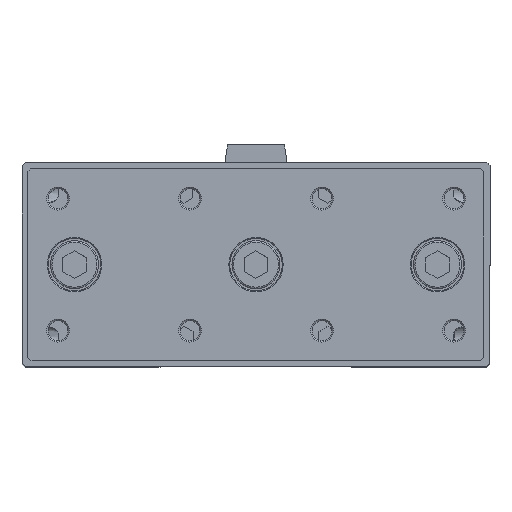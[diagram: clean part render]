
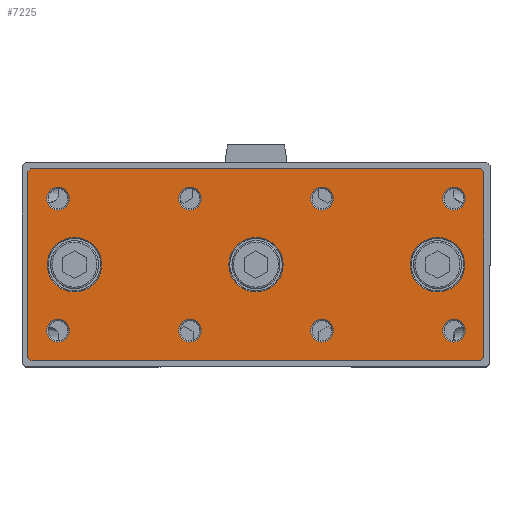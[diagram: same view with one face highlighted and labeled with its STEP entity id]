
A CAD part, top view. The second image highlights one B-rep face of the part: STEP entity #7225.
In plain terms, the highlighted planar face has unit normal (0, 0, 1).
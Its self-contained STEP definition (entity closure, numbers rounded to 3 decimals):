
#6983=CARTESIAN_POINT('',(-82.057,-30.206,171.6));
#6984=VERTEX_POINT('',#6983);
#6985=CARTESIAN_POINT('',(-83.057,-29.206,171.6));
#6986=VERTEX_POINT('',#6985);
#6987=CARTESIAN_POINT('',(-82.057,-30.206,171.6));
#6988=DIRECTION('',(-0.707,0.707,0.0));
#6989=VECTOR('',#6988,1.414);
#6990=LINE('',#6987,#6989);
#6991=EDGE_CURVE('',#6984,#6986,#6990,.T.);
#7024=CARTESIAN_POINT('',(-83.057,32.794,171.6));
#7025=VERTEX_POINT('',#7024);
#7026=CARTESIAN_POINT('',(-83.057,-29.206,171.6));
#7027=DIRECTION('',(0.0,1.0,0.0));
#7028=VECTOR('',#7027,62.);
#7029=LINE('',#7026,#7028);
#7030=EDGE_CURVE('',#6986,#7025,#7029,.T.);
#7049=CARTESIAN_POINT('',(-7.057,1.794,171.6));
#7050=DIRECTION('',(0.0,0.0,1.0));
#7051=DIRECTION('',(1.0,0.0,0.0));
#7052=AXIS2_PLACEMENT_3D('',#7049,#7050,#7051);
#7053=PLANE('',#7052);
#7054=ORIENTED_EDGE('',*,*,#6991,.F.);
#7055=CARTESIAN_POINT('',(67.943,-30.206,171.6));
#7056=VERTEX_POINT('',#7055);
#7057=CARTESIAN_POINT('',(67.943,-30.206,171.6));
#7058=DIRECTION('',(-1.0,0.0,0.0));
#7059=VECTOR('',#7058,150.0);
#7060=LINE('',#7057,#7059);
#7061=EDGE_CURVE('',#7056,#6984,#7060,.T.);
#7062=ORIENTED_EDGE('',*,*,#7061,.F.);
#7063=CARTESIAN_POINT('',(68.943,-29.206,171.6));
#7064=VERTEX_POINT('',#7063);
#7065=CARTESIAN_POINT('',(68.943,-29.206,171.6));
#7066=DIRECTION('',(-0.707,-0.707,0.0));
#7067=VECTOR('',#7066,1.414);
#7068=LINE('',#7065,#7067);
#7069=EDGE_CURVE('',#7064,#7056,#7068,.T.);
#7070=ORIENTED_EDGE('',*,*,#7069,.F.);
#7071=CARTESIAN_POINT('',(68.943,32.794,171.6));
#7072=VERTEX_POINT('',#7071);
#7073=CARTESIAN_POINT('',(68.943,32.794,171.6));
#7074=DIRECTION('',(0.0,-1.0,0.0));
#7075=VECTOR('',#7074,62.);
#7076=LINE('',#7073,#7075);
#7077=EDGE_CURVE('',#7072,#7064,#7076,.T.);
#7078=ORIENTED_EDGE('',*,*,#7077,.F.);
#7079=CARTESIAN_POINT('',(67.943,33.794,171.6));
#7080=VERTEX_POINT('',#7079);
#7081=CARTESIAN_POINT('',(67.943,33.794,171.6));
#7082=DIRECTION('',(0.707,-0.707,0.0));
#7083=VECTOR('',#7082,1.414);
#7084=LINE('',#7081,#7083);
#7085=EDGE_CURVE('',#7080,#7072,#7084,.T.);
#7086=ORIENTED_EDGE('',*,*,#7085,.F.);
#7087=CARTESIAN_POINT('',(-82.057,33.794,171.6));
#7088=VERTEX_POINT('',#7087);
#7089=CARTESIAN_POINT('',(-82.057,33.794,171.6));
#7090=DIRECTION('',(1.0,0.0,0.0));
#7091=VECTOR('',#7090,150.);
#7092=LINE('',#7089,#7091);
#7093=EDGE_CURVE('',#7088,#7080,#7092,.T.);
#7094=ORIENTED_EDGE('',*,*,#7093,.F.);
#7095=CARTESIAN_POINT('',(-83.057,32.794,171.6));
#7096=DIRECTION('',(0.707,0.707,0.0));
#7097=VECTOR('',#7096,1.414);
#7098=LINE('',#7095,#7097);
#7099=EDGE_CURVE('',#7025,#7088,#7098,.T.);
#7100=ORIENTED_EDGE('',*,*,#7099,.F.);
#7101=ORIENTED_EDGE('',*,*,#7030,.F.);
#7102=EDGE_LOOP('',(#7054,#7062,#7070,#7078,#7086,#7094,#7100,#7101));
#7103=FACE_OUTER_BOUND('',#7102,.T.);
#7104=CARTESIAN_POINT('',(-58.507,1.794,171.6));
#7105=VERTEX_POINT('',#7104);
#7106=CARTESIAN_POINT('',(-67.557,1.794,171.6));
#7107=DIRECTION('',(0.0,0.0,1.0));
#7108=DIRECTION('',(-1.0,0.0,0.0));
#7109=AXIS2_PLACEMENT_3D('',#7106,#7107,#7108);
#7110=CIRCLE('',#7109,9.05);
#7111=EDGE_CURVE('',#7105,#7105,#7110,.T.);
#7112=ORIENTED_EDGE('',*,*,#7111,.F.);
#7113=EDGE_LOOP('',(#7112));
#7114=FACE_BOUND('',#7113,.T.);
#7115=CARTESIAN_POINT('',(62.766,-20.206,171.6));
#7116=VERTEX_POINT('',#7115);
#7117=CARTESIAN_POINT('',(58.943,-20.206,171.6));
#7118=DIRECTION('',(0.0,0.0,1.0));
#7119=DIRECTION('',(-1.0,0.0,0.0));
#7120=AXIS2_PLACEMENT_3D('',#7117,#7118,#7119);
#7121=CIRCLE('',#7120,3.823);
#7122=EDGE_CURVE('',#7116,#7116,#7121,.T.);
#7123=ORIENTED_EDGE('',*,*,#7122,.F.);
#7124=EDGE_LOOP('',(#7123));
#7125=FACE_BOUND('',#7124,.T.);
#7126=CARTESIAN_POINT('',(-69.234,-20.206,171.6));
#7127=VERTEX_POINT('',#7126);
#7128=CARTESIAN_POINT('',(-73.057,-20.206,171.6));
#7129=DIRECTION('',(0.0,0.0,1.0));
#7130=DIRECTION('',(-1.0,0.0,0.0));
#7131=AXIS2_PLACEMENT_3D('',#7128,#7129,#7130);
#7132=CIRCLE('',#7131,3.823);
#7133=EDGE_CURVE('',#7127,#7127,#7132,.T.);
#7134=ORIENTED_EDGE('',*,*,#7133,.F.);
#7135=EDGE_LOOP('',(#7134));
#7136=FACE_BOUND('',#7135,.T.);
#7137=CARTESIAN_POINT('',(62.766,23.794,171.6));
#7138=VERTEX_POINT('',#7137);
#7139=CARTESIAN_POINT('',(58.943,23.794,171.6));
#7140=DIRECTION('',(0.0,0.0,1.0));
#7141=DIRECTION('',(-1.0,0.0,0.0));
#7142=AXIS2_PLACEMENT_3D('',#7139,#7140,#7141);
#7143=CIRCLE('',#7142,3.823);
#7144=EDGE_CURVE('',#7138,#7138,#7143,.T.);
#7145=ORIENTED_EDGE('',*,*,#7144,.F.);
#7146=EDGE_LOOP('',(#7145));
#7147=FACE_BOUND('',#7146,.T.);
#7148=CARTESIAN_POINT('',(-69.234,23.794,171.6));
#7149=VERTEX_POINT('',#7148);
#7150=CARTESIAN_POINT('',(-73.057,23.794,171.6));
#7151=DIRECTION('',(0.0,0.0,1.0));
#7152=DIRECTION('',(-1.0,0.0,0.0));
#7153=AXIS2_PLACEMENT_3D('',#7150,#7151,#7152);
#7154=CIRCLE('',#7153,3.823);
#7155=EDGE_CURVE('',#7149,#7149,#7154,.T.);
#7156=ORIENTED_EDGE('',*,*,#7155,.F.);
#7157=EDGE_LOOP('',(#7156));
#7158=FACE_BOUND('',#7157,.T.);
#7159=CARTESIAN_POINT('',(18.766,-20.206,171.6));
#7160=VERTEX_POINT('',#7159);
#7161=CARTESIAN_POINT('',(14.943,-20.206,171.6));
#7162=DIRECTION('',(0.0,0.0,1.0));
#7163=DIRECTION('',(-1.0,0.0,0.0));
#7164=AXIS2_PLACEMENT_3D('',#7161,#7162,#7163);
#7165=CIRCLE('',#7164,3.824);
#7166=EDGE_CURVE('',#7160,#7160,#7165,.T.);
#7167=ORIENTED_EDGE('',*,*,#7166,.F.);
#7168=EDGE_LOOP('',(#7167));
#7169=FACE_BOUND('',#7168,.T.);
#7170=CARTESIAN_POINT('',(-25.234,-20.206,171.6));
#7171=VERTEX_POINT('',#7170);
#7172=CARTESIAN_POINT('',(-29.057,-20.206,171.6));
#7173=DIRECTION('',(0.0,0.0,1.0));
#7174=DIRECTION('',(-1.0,0.0,0.0));
#7175=AXIS2_PLACEMENT_3D('',#7172,#7173,#7174);
#7176=CIRCLE('',#7175,3.823);
#7177=EDGE_CURVE('',#7171,#7171,#7176,.T.);
#7178=ORIENTED_EDGE('',*,*,#7177,.F.);
#7179=EDGE_LOOP('',(#7178));
#7180=FACE_BOUND('',#7179,.T.);
#7181=CARTESIAN_POINT('',(18.766,23.794,171.6));
#7182=VERTEX_POINT('',#7181);
#7183=CARTESIAN_POINT('',(14.943,23.794,171.6));
#7184=DIRECTION('',(0.0,0.0,1.0));
#7185=DIRECTION('',(-1.0,0.0,0.0));
#7186=AXIS2_PLACEMENT_3D('',#7183,#7184,#7185);
#7187=CIRCLE('',#7186,3.824);
#7188=EDGE_CURVE('',#7182,#7182,#7187,.T.);
#7189=ORIENTED_EDGE('',*,*,#7188,.F.);
#7190=EDGE_LOOP('',(#7189));
#7191=FACE_BOUND('',#7190,.T.);
#7192=CARTESIAN_POINT('',(-25.234,23.794,171.6));
#7193=VERTEX_POINT('',#7192);
#7194=CARTESIAN_POINT('',(-29.057,23.794,171.6));
#7195=DIRECTION('',(0.0,0.0,1.0));
#7196=DIRECTION('',(-1.0,0.0,0.0));
#7197=AXIS2_PLACEMENT_3D('',#7194,#7195,#7196);
#7198=CIRCLE('',#7197,3.823);
#7199=EDGE_CURVE('',#7193,#7193,#7198,.T.);
#7200=ORIENTED_EDGE('',*,*,#7199,.F.);
#7201=EDGE_LOOP('',(#7200));
#7202=FACE_BOUND('',#7201,.T.);
#7203=CARTESIAN_POINT('',(62.493,1.794,171.6));
#7204=VERTEX_POINT('',#7203);
#7205=CARTESIAN_POINT('',(53.443,1.794,171.6));
#7206=DIRECTION('',(0.0,0.0,1.0));
#7207=DIRECTION('',(-1.0,0.0,0.0));
#7208=AXIS2_PLACEMENT_3D('',#7205,#7206,#7207);
#7209=CIRCLE('',#7208,9.05);
#7210=EDGE_CURVE('',#7204,#7204,#7209,.T.);
#7211=ORIENTED_EDGE('',*,*,#7210,.F.);
#7212=EDGE_LOOP('',(#7211));
#7213=FACE_BOUND('',#7212,.T.);
#7214=CARTESIAN_POINT('',(1.993,1.794,171.6));
#7215=VERTEX_POINT('',#7214);
#7216=CARTESIAN_POINT('',(-7.057,1.794,171.6));
#7217=DIRECTION('',(0.0,0.0,1.0));
#7218=DIRECTION('',(-1.0,0.0,0.0));
#7219=AXIS2_PLACEMENT_3D('',#7216,#7217,#7218);
#7220=CIRCLE('',#7219,9.05);
#7221=EDGE_CURVE('',#7215,#7215,#7220,.T.);
#7222=ORIENTED_EDGE('',*,*,#7221,.F.);
#7223=EDGE_LOOP('',(#7222));
#7224=FACE_BOUND('',#7223,.T.);
#7225=ADVANCED_FACE('',(#7103,#7114,#7125,#7136,#7147,#7158,#7169,#7180,#7191,#7202,#7213,#7224),#7053,.T.);
